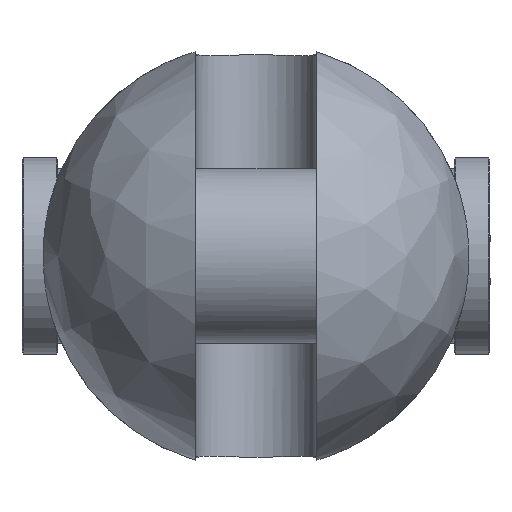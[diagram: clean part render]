
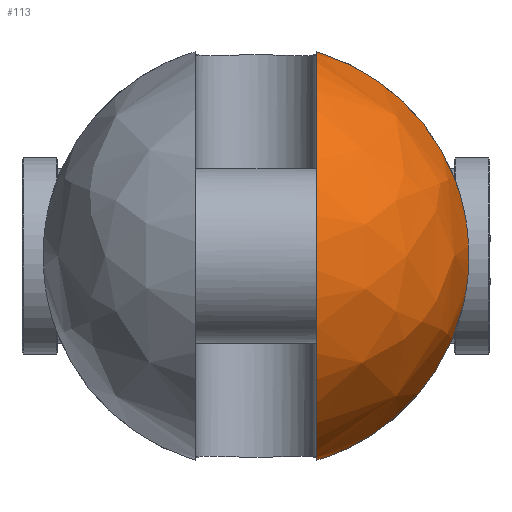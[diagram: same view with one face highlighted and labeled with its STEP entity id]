
A CAD part, left-side view. The second image highlights one B-rep face of the part: STEP entity #113.
In plain terms, the highlighted free-form (B-spline) face has degree [2, 2] with [9, 5] control points.
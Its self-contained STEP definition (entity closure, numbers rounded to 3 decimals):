
#113=ADVANCED_FACE('',(#200),#1527,.T.);
#200=FACE_OUTER_BOUND('',#299,.T.);
#299=EDGE_LOOP('',(#741,#742,#743,#744));
#741=ORIENTED_EDGE('',*,*,#999,.T.);
#742=ORIENTED_EDGE('',*,*,#996,.F.);
#743=ORIENTED_EDGE('',*,*,#1015,.T.);
#744=ORIENTED_EDGE('',*,*,#988,.F.);
#988=EDGE_CURVE('',#1418,#1419,#1249,.T.);
#996=EDGE_CURVE('',#1426,#1427,#1250,.T.);
#999=EDGE_CURVE('',#1418,#1427,#1252,.T.);
#1015=EDGE_CURVE('',#1426,#1419,#1123,.T.);
#1123=B_SPLINE_CURVE_WITH_KNOTS('',3,(#3624,#3625,#3626,#3627,#3628,#3629,
#3630,#3631,#3632,#3633,#3634,#3635,#3636,#3637),.UNSPECIFIED.,.F.,.F.,
(4,2,2,2,2,2,4),(0.,4.322,11.398,18.474,
25.549,32.625,36.947),.UNSPECIFIED.);
#1249=(
BOUNDED_CURVE()
B_SPLINE_CURVE(2,(#3476,#3477,#3478),.UNSPECIFIED.,.F.,.F.)
B_SPLINE_CURVE_WITH_KNOTS((3,3),(0.,80.928),.UNSPECIFIED.)
CURVE()
GEOMETRIC_REPRESENTATION_ITEM()
RATIONAL_B_SPLINE_CURVE((1.,0.865,1.))
REPRESENTATION_ITEM('')
);
#1250=(
BOUNDED_CURVE()
B_SPLINE_CURVE(2,(#3533,#3534,#3535),.UNSPECIFIED.,.F.,.F.)
B_SPLINE_CURVE_WITH_KNOTS((3,3),(0.,80.928),.UNSPECIFIED.)
CURVE()
GEOMETRIC_REPRESENTATION_ITEM()
RATIONAL_B_SPLINE_CURVE((1.,0.865,1.))
REPRESENTATION_ITEM('')
);
#1252=(
BOUNDED_CURVE()
B_SPLINE_CURVE(2,(#3541,#3542,#3543,#3544,#3545),.UNSPECIFIED.,.F.,.F.)
B_SPLINE_CURVE_WITH_KNOTS((3,2,3),(-231.819,-115.909,
0.),.UNSPECIFIED.)
CURVE()
GEOMETRIC_REPRESENTATION_ITEM()
RATIONAL_B_SPLINE_CURVE((1.,0.707,1.,0.707,1.))
REPRESENTATION_ITEM('')
);
#1418=VERTEX_POINT('',#3274);
#1419=VERTEX_POINT('',#3275);
#1426=VERTEX_POINT('',#3282);
#1427=VERTEX_POINT('',#3283);
#1527=(
BOUNDED_SURFACE()
B_SPLINE_SURFACE(2,2,((#3146,#3147,#3148,#3149,#3150),(#3151,#3152,#3153,
#3154,#3155),(#3156,#3157,#3158,#3159,#3160),(#3161,#3162,#3163,#3164,#3165),
(#3166,#3167,#3168,#3169,#3170),(#3171,#3172,#3173,#3174,#3175),(#3176,
#3177,#3178,#3179,#3180),(#3181,#3182,#3183,#3184,#3185),(#3186,#3187,#3188,
#3189,#3190)),.UNSPECIFIED.,.T.,.F.,.F.)
B_SPLINE_SURFACE_WITH_KNOTS((3,2,2,2,3),(3,2,3),(0.,120.951,241.903,
362.854,483.805),(0.,120.951,241.903),
 .UNSPECIFIED.)
GEOMETRIC_REPRESENTATION_ITEM()
RATIONAL_B_SPLINE_SURFACE(((1.,0.707,1.,0.707,1.),
(0.707,0.5,0.707,0.5,0.707),(1.,0.707,
1.,0.707,1.),(0.707,0.5,0.707,0.5,0.707),
(1.,0.707,1.,0.707,1.),(0.707,0.5,0.707,
0.5,0.707),(1.,0.707,1.,0.707,1.),(0.707,
0.5,0.707,0.5,0.707),(1.,0.707,1.,0.707,
1.)))
REPRESENTATION_ITEM('')
SURFACE()
);
#3146=CARTESIAN_POINT('',(-109.,0.,0.));
#3147=CARTESIAN_POINT('',(-109.,77.,0.));
#3148=CARTESIAN_POINT('',(-32.,77.,0.));
#3149=CARTESIAN_POINT('',(45.,77.,0.));
#3150=CARTESIAN_POINT('',(45.,0.,0.));
#3151=CARTESIAN_POINT('',(-109.,0.,0.));
#3152=CARTESIAN_POINT('',(-109.,77.,77.));
#3153=CARTESIAN_POINT('',(-32.,77.,77.));
#3154=CARTESIAN_POINT('',(45.,77.,77.));
#3155=CARTESIAN_POINT('',(45.,0.,0.));
#3156=CARTESIAN_POINT('',(-109.,0.,0.));
#3157=CARTESIAN_POINT('',(-109.,0.,77.));
#3158=CARTESIAN_POINT('',(-32.,0.,77.));
#3159=CARTESIAN_POINT('',(45.,0.,77.));
#3160=CARTESIAN_POINT('',(45.,0.,0.));
#3161=CARTESIAN_POINT('',(-109.,0.,0.));
#3162=CARTESIAN_POINT('',(-109.,-77.,77.));
#3163=CARTESIAN_POINT('',(-32.,-77.,77.));
#3164=CARTESIAN_POINT('',(45.,-77.,77.));
#3165=CARTESIAN_POINT('',(45.,0.,0.));
#3166=CARTESIAN_POINT('',(-109.,0.,0.));
#3167=CARTESIAN_POINT('',(-109.,-77.,0.));
#3168=CARTESIAN_POINT('',(-32.,-77.,0.));
#3169=CARTESIAN_POINT('',(45.,-77.,0.));
#3170=CARTESIAN_POINT('',(45.,0.,0.));
#3171=CARTESIAN_POINT('',(-109.,0.,0.));
#3172=CARTESIAN_POINT('',(-109.,-77.,-77.));
#3173=CARTESIAN_POINT('',(-32.,-77.,-77.));
#3174=CARTESIAN_POINT('',(45.,-77.,-77.));
#3175=CARTESIAN_POINT('',(45.,0.,0.));
#3176=CARTESIAN_POINT('',(-109.,0.,0.));
#3177=CARTESIAN_POINT('',(-109.,0.,-77.));
#3178=CARTESIAN_POINT('',(-32.,0.,-77.));
#3179=CARTESIAN_POINT('',(45.,0.,-77.));
#3180=CARTESIAN_POINT('',(45.,0.,0.));
#3181=CARTESIAN_POINT('',(-109.,0.,0.));
#3182=CARTESIAN_POINT('',(-109.,77.,-77.));
#3183=CARTESIAN_POINT('',(-32.,77.,-77.));
#3184=CARTESIAN_POINT('',(45.,77.,-77.));
#3185=CARTESIAN_POINT('',(45.,0.,0.));
#3186=CARTESIAN_POINT('',(-109.,0.,0.));
#3187=CARTESIAN_POINT('',(-109.,77.,0.));
#3188=CARTESIAN_POINT('',(-32.,77.,0.));
#3189=CARTESIAN_POINT('',(45.,77.,0.));
#3190=CARTESIAN_POINT('',(45.,0.,0.));
#3274=CARTESIAN_POINT('',(-32.,-22.,73.79));
#3275=CARTESIAN_POINT('',(-32.,-74.972,17.557));
#3282=CARTESIAN_POINT('',(-32.,-74.972,-17.557));
#3283=CARTESIAN_POINT('',(-32.,-22.,-73.79));
#3476=CARTESIAN_POINT('',(-32.,-22.,73.79));
#3477=CARTESIAN_POINT('',(-32.,-64.79,61.033));
#3478=CARTESIAN_POINT('',(-32.,-74.972,17.557));
#3533=CARTESIAN_POINT('',(-32.,-74.972,-17.557));
#3534=CARTESIAN_POINT('',(-32.,-64.79,-61.033));
#3535=CARTESIAN_POINT('',(-32.,-22.,-73.79));
#3541=CARTESIAN_POINT('',(-32.,-22.,73.79));
#3542=CARTESIAN_POINT('',(-105.79,-22.,73.79));
#3543=CARTESIAN_POINT('',(-105.79,-22.,0.));
#3544=CARTESIAN_POINT('',(-105.79,-22.,-73.79));
#3545=CARTESIAN_POINT('',(-32.,-22.,-73.79));
#3624=CARTESIAN_POINT('',(-32.,-74.972,-17.557));
#3625=CARTESIAN_POINT('',(-32.686,-75.264,-16.307));
#3626=CARTESIAN_POINT('',(-33.304,-75.526,-15.006));
#3627=CARTESIAN_POINT('',(-34.727,-76.128,-11.482));
#3628=CARTESIAN_POINT('',(-35.401,-76.41,-9.193));
#3629=CARTESIAN_POINT('',(-36.288,-76.78,-4.579));
#3630=CARTESIAN_POINT('',(-36.5,-76.868,-2.254));
#3631=CARTESIAN_POINT('',(-36.5,-76.868,2.254));
#3632=CARTESIAN_POINT('',(-36.288,-76.78,4.579));
#3633=CARTESIAN_POINT('',(-35.401,-76.41,9.193));
#3634=CARTESIAN_POINT('',(-34.727,-76.128,11.482));
#3635=CARTESIAN_POINT('',(-33.304,-75.526,15.006));
#3636=CARTESIAN_POINT('',(-32.686,-75.264,16.307));
#3637=CARTESIAN_POINT('',(-32.,-74.972,17.557));
